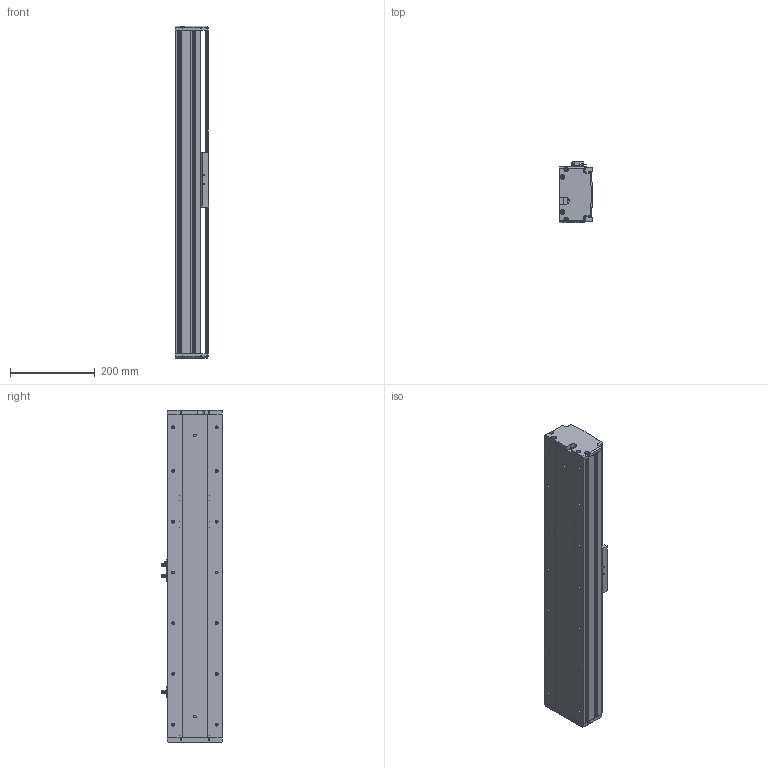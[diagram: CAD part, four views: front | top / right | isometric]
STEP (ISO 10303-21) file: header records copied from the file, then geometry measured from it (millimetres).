
FILE_DESCRIPTION (( 'STEP AP214' ), '1' );
FILE_NAME ('KSD130S-P2010-S300-M-CM.STEP', '2019-09-10T06:33:30', ( '微软用户' ), ( '微软中国' ), 'SwSTEP 2.0', 'SolidWorks 2014', '' );
FILE_SCHEMA (( 'AUTOMOTIVE_DESIGN' ));
Length unit declared in the file: millimetre
Products named in the file (8): 130宽滚珠丝杆安装板半封闭-内装-20丝杆; 130宽端盖半封闭-内装; 130宽底板半封闭丝杠内装-300行程; KSD130S-P2010-S300-M-CM; 130宽马达安装板半封闭-内装; U倰嫖萇EEㄜSX672; 覜茼え100遵圉猾敕; 130宽盖板半封闭丝杠内装-300行程
Assembly tree (9 placements, depth 2):
  KSD130S-P2010-S300-M-CM
    130宽底板半封闭丝杠内装-300行程
    130宽端盖半封闭-内装
    130宽滚珠丝杆安装板半封闭-内装-20丝杆
    130宽盖板半封闭丝杠内装-300行程
    覜茼え100遵圉猾敕
    U倰嫖萇EEㄜSX672  x3
    130宽马达安装板半封闭-内装
Bounding box: 80 x 143.7 x 785 mm (x, y, z)
Volume: 2511025.9 mm3; surface area: 761795.2 mm2
Topology: 9 solids, 9 shells, 1015 faces, 2924 edges, 1868 vertices
Faces by surface type: cylinder 446, plane 439, cone 130
Entity records: 32030 total; most frequent: CARTESIAN_POINT 6077, DIRECTION 4670, ORIENTED_EDGE 4584, EDGE_CURVE 2292, AXIS2_PLACEMENT_3D 1685, VERTEX_POINT 1492, VECTOR 1300, LINE 1300
